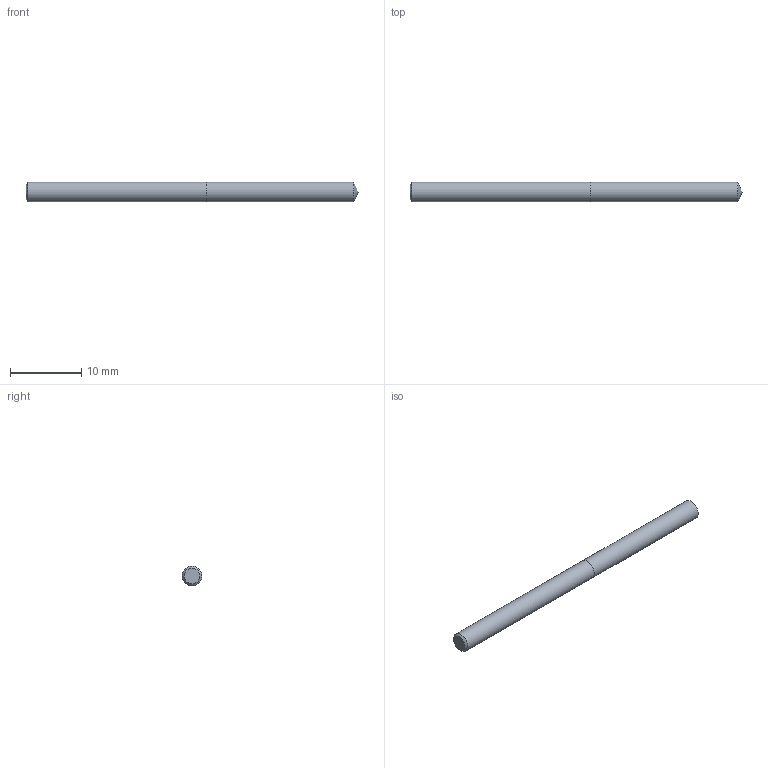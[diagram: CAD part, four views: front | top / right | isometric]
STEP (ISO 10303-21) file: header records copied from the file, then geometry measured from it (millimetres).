
FILE_DESCRIPTION (( 'STEP AP214' ), '1' );
FILE_NAME ('03-2406.STEP', '2022-06-03T07:20:46', ( 'USER' ), ( '' ), 'SwSTEP 2.0', 'SolidWorks 2018', '' );
FILE_SCHEMA (( 'AUTOMOTIVE_DESIGN' ));
Length unit declared in the file: inch
Products named in the file (1): 03-2406
Bounding box: 46.61 x 2.78 x 2.78 mm (x, y, z)
Volume: 279.9 mm3; surface area: 425 mm2
Topology: 2 solids, 2 shells, 7 faces, 11 edges, 7 vertices
Faces by surface type: plane 3, cylinder 2, cone 2
Full cylindrical faces by diameter (mm): 2.778 x2
Entity records: 214 total; most frequent: DIRECTION 26, CARTESIAN_POINT 18, AXIS2_PLACEMENT_3D 13, EDGE_LOOP 10, ORIENTED_EDGE 10, FACE_OUTER_BOUND 9, ADVANCED_FACE 7, DIMENSIONAL_EXPONENTS 7
